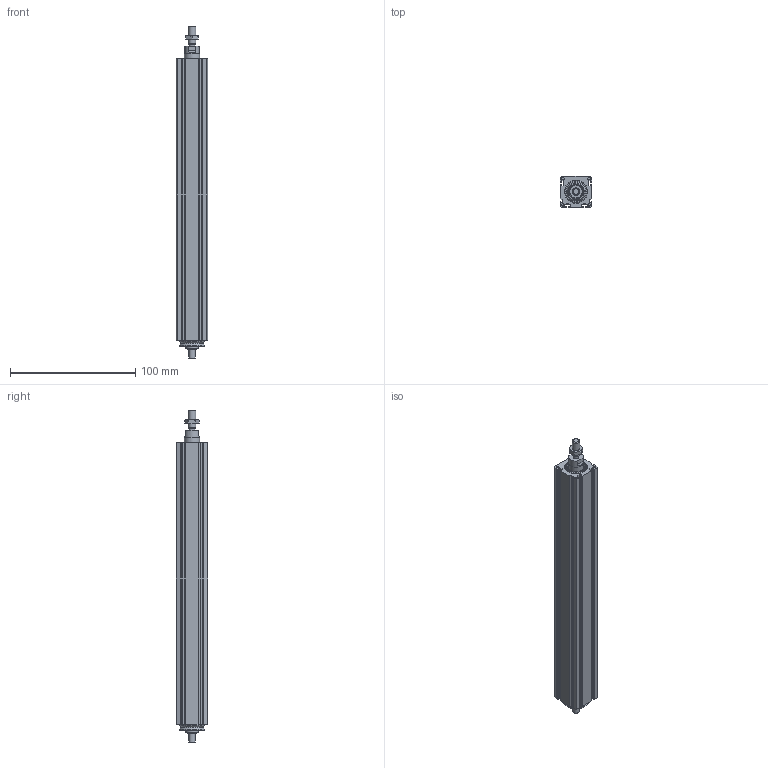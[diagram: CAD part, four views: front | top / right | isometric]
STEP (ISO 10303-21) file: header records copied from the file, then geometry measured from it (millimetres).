
FILE_DESCRIPTION(/* description */ ('STEP AP214'),/* implementation_level */ '2;1');
FILE_NAME(/* name */ 'MCE 25 0602 175 0(0)',/* time_stamp */ '2023-10-05T13:24:36+02:00',/* author */ ('License CC BY-ND 4.0'),/* organization */ ('CADENAS'),/* preprocessor_version */ 'ST-DEVELOPER v19.3',/* originating_system */ 'PARTsolutions',/* authorisation */ ' ');
FILE_SCHEMA (('AUTOMOTIVE_DESIGN {1 0 10303 214 3 1 1}'));
Length unit declared in the file: millimetre
Products named in the file (4): MCE 25 0602 175  0(0); 25_nut; 25(1750)_rod; 25(175)_msc
Assembly tree (3 placements, depth 2):
  MCE 25 0602 175  0(0)
    25_nut
    25(1750)_rod
    25(175)_msc
Bounding box: 25 x 25 x 265 mm (x, y, z)
Volume: 102586.9 mm3; surface area: 56108.9 mm2
Topology: 3 solids, 3 shells, 245 faces, 623 edges, 406 vertices
Faces by surface type: plane 110, cylinder 108, cone 23, torus 4
Full cylindrical faces by diameter (mm): 2.013 x8, 4.8 x1, 4.917 x1, 5 x1, 6 x1, 8 x1, 10 x1, 11.8 x1, 12 x2, 14.7 x1, 15.4 x1, 18 x1, 19 x2, 20 x2
Entity records: 7373 total; most frequent: CARTESIAN_POINT 1327, DIRECTION 1300, ORIENTED_EDGE 1164, EDGE_CURVE 582, AXIS2_PLACEMENT_3D 495, VERTEX_POINT 404, LINE 310, VECTOR 310
